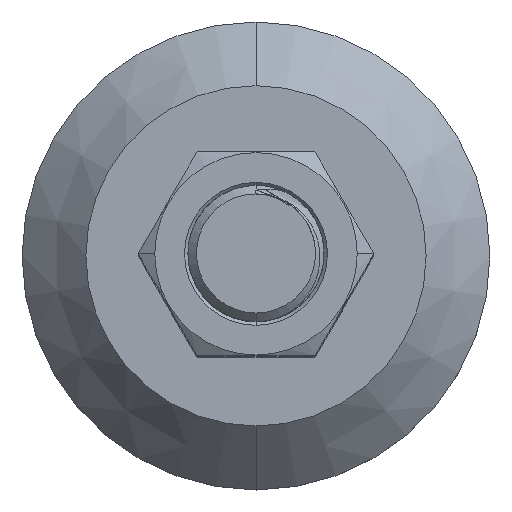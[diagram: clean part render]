
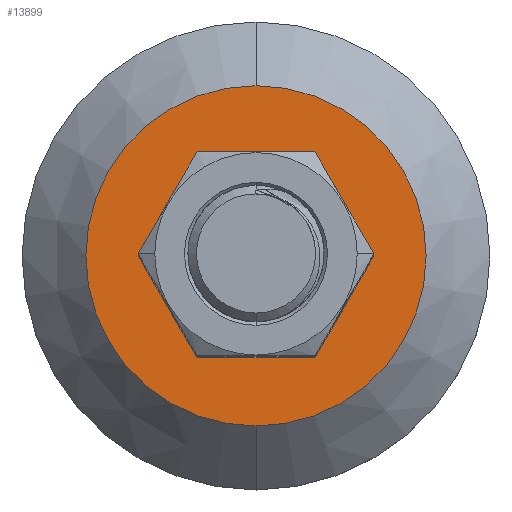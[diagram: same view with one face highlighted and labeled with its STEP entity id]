
A CAD part, top view. The second image highlights one B-rep face of the part: STEP entity #13899.
In plain terms, the highlighted planar face has unit normal (0, 0, 1).
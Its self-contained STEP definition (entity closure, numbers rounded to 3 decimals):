
#426 = ORIENTED_EDGE ( 'NONE', *, *, #9106, .T. ) ;
#443 = DIRECTION ( 'NONE',  ( 0., 0., -1. ) ) ;
#1039 = DIRECTION ( 'NONE',  ( 0., 1., 0. ) ) ;
#1757 = CIRCLE ( 'NONE', #6928, 20. ) ;
#3133 = CIRCLE ( 'NONE', #3966, 20. ) ;
#3203 = AXIS2_PLACEMENT_3D ( 'NONE', #10153, #11502, #3504 ) ;
#3504 = DIRECTION ( 'NONE',  ( 1., 0., 0. ) ) ;
#3519 = EDGE_LOOP ( 'NONE', ( #11500, #8791 ) ) ;
#3710 = VERTEX_POINT ( 'NONE', #10623 ) ;
#3966 = AXIS2_PLACEMENT_3D ( 'NONE', #17015, #9034, #1039 ) ;
#4924 = DIRECTION ( 'NONE',  ( 0., 0., 1. ) ) ;
#6537 = EDGE_LOOP ( 'NONE', ( #13772, #426 ) ) ;
#6928 = AXIS2_PLACEMENT_3D ( 'NONE', #12900, #4924, #14226 ) ;
#7006 = EDGE_CURVE ( 'NONE', #7932, #16918, #13514, .T. ) ;
#7125 = CARTESIAN_POINT ( 'NONE',  ( 0., 0., 14. ) ) ;
#7932 = VERTEX_POINT ( 'NONE', #10444 ) ;
#8457 = CARTESIAN_POINT ( 'NONE',  ( 0., 0., 14. ) ) ;
#8466 = DIRECTION ( 'NONE',  ( 1., 0., 0. ) ) ;
#8791 = ORIENTED_EDGE ( 'NONE', *, *, #15350, .T. ) ;
#9034 = DIRECTION ( 'NONE',  ( 0., 0., 1. ) ) ;
#9106 = EDGE_CURVE ( 'NONE', #16918, #7932, #15985, .T. ) ;
#9720 = FACE_BOUND ( 'NONE', #6537, .T. ) ;
#9795 = DIRECTION ( 'NONE',  ( 1., 0., 0. ) ) ;
#10023 = CARTESIAN_POINT ( 'NONE',  ( -9.25, 0., 14. ) ) ;
#10153 = CARTESIAN_POINT ( 'NONE',  ( -20.24, -20.24, 14. ) ) ;
#10444 = CARTESIAN_POINT ( 'NONE',  ( 9.25, 0., 14. ) ) ;
#10523 = AXIS2_PLACEMENT_3D ( 'NONE', #8457, #443, #9795 ) ;
#10623 = CARTESIAN_POINT ( 'NONE',  ( 0., -20., 14. ) ) ;
#11500 = ORIENTED_EDGE ( 'NONE', *, *, #11800, .T. ) ;
#11502 = DIRECTION ( 'NONE',  ( 0., 0., 1. ) ) ;
#11800 = EDGE_CURVE ( 'NONE', #12370, #3710, #3133, .T. ) ;
#12126 = AXIS2_PLACEMENT_3D ( 'NONE', #7125, #16432, #8466 ) ;
#12370 = VERTEX_POINT ( 'NONE', #15138 ) ;
#12770 = PLANE ( 'NONE',  #3203 ) ;
#12830 = FACE_OUTER_BOUND ( 'NONE', #3519, .T. ) ;
#12900 = CARTESIAN_POINT ( 'NONE',  ( 0., 0., 14. ) ) ;
#13514 = CIRCLE ( 'NONE', #10523, 9.25 ) ;
#13772 = ORIENTED_EDGE ( 'NONE', *, *, #7006, .T. ) ;
#13899 = ADVANCED_FACE ( 'NONE', ( #9720, #12830 ), #12770, .T. ) ;
#14226 = DIRECTION ( 'NONE',  ( 0., 1., 0. ) ) ;
#15138 = CARTESIAN_POINT ( 'NONE',  ( 0., 20., 14. ) ) ;
#15350 = EDGE_CURVE ( 'NONE', #3710, #12370, #1757, .T. ) ;
#15985 = CIRCLE ( 'NONE', #12126, 9.25 ) ;
#16432 = DIRECTION ( 'NONE',  ( 0., 0., -1. ) ) ;
#16918 = VERTEX_POINT ( 'NONE', #10023 ) ;
#17015 = CARTESIAN_POINT ( 'NONE',  ( 0., 0., 14. ) ) ;
